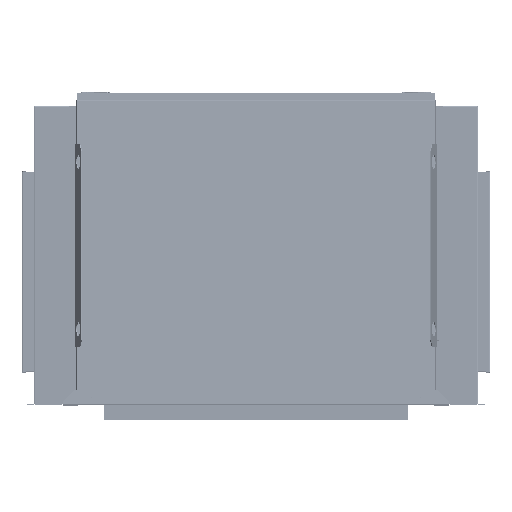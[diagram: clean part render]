
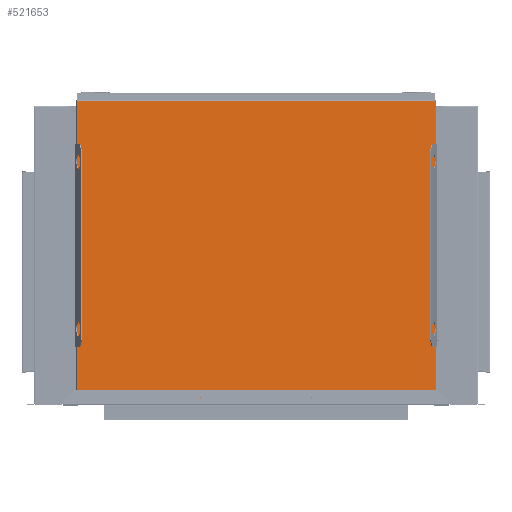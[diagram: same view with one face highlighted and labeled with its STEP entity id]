
A CAD part, top view. The second image highlights one B-rep face of the part: STEP entity #521653.
In plain terms, the highlighted planar face has unit normal (0, 0.044, 0.999) as drawn and (0, 0, 1) by its records, which use the part's own axes.
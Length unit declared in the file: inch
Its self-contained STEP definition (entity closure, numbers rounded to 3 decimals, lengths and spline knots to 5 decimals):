
#822 = CARTESIAN_POINT ( 'NONE',  ( 32.81217, 0.99488, 0.06 ) ) ;
#8132 = DIRECTION ( 'NONE',  ( 1., 0., 0. ) ) ;
#11526 = VERTEX_POINT ( 'NONE', #471740 ) ;
#14458 = VERTEX_POINT ( 'NONE', #395007 ) ;
#15715 = DIRECTION ( 'NONE',  ( -1., 0., 0. ) ) ;
#19744 = VERTEX_POINT ( 'NONE', #439813 ) ;
#20022 = EDGE_CURVE ( 'NONE', #19744, #654805, #240149, .T. ) ;
#22929 = LINE ( 'NONE', #86561, #421782 ) ;
#30483 = AXIS2_PLACEMENT_3D ( 'NONE', #495760, #106322, #555379 ) ;
#41500 = VERTEX_POINT ( 'NONE', #732994 ) ;
#43859 = CARTESIAN_POINT ( 'NONE',  ( 0.188, 0.01567, 0.06 ) ) ;
#45739 = CARTESIAN_POINT ( 'NONE',  ( 17.54783, 0.99488, 0.06 ) ) ;
#47868 = DIRECTION ( 'NONE',  ( 1., 0., 0. ) ) ;
#51626 = VERTEX_POINT ( 'NONE', #61726 ) ;
#52289 = VERTEX_POINT ( 'NONE', #353763 ) ;
#56556 = ORIENTED_EDGE ( 'NONE', *, *, #651096, .F. ) ;
#59160 = ORIENTED_EDGE ( 'NONE', *, *, #570061, .F. ) ;
#60663 = CARTESIAN_POINT ( 'NONE',  ( 48.3, 0.99488, 0.06 ) ) ;
#61726 = CARTESIAN_POINT ( 'NONE',  ( 50.345, 0.125, 0.06 ) ) ;
#72612 = VECTOR ( 'NONE', #15715, 39.37008 ) ;
#77588 = ORIENTED_EDGE ( 'NONE', *, *, #90087, .F. ) ;
#86561 = CARTESIAN_POINT ( 'NONE',  ( 50.172, 0., 0.06 ) ) ;
#88058 = CARTESIAN_POINT ( 'NONE',  ( 0.015, 0.125, 0.06 ) ) ;
#90087 = EDGE_CURVE ( 'NONE', #383994, #451426, #257951, .T. ) ;
#104207 = CARTESIAN_POINT ( 'NONE',  ( 48.2255, 0.99488, 0.06 ) ) ;
#105235 = EDGE_CURVE ( 'NONE', #14458, #252080, #526092, .T. ) ;
#106322 = DIRECTION ( 'NONE',  ( 0., 0., 1. ) ) ;
#126441 = CIRCLE ( 'NONE', #592579, 0.0745 ) ;
#137806 = VERTEX_POINT ( 'NONE', #218986 ) ;
#141510 = ORIENTED_EDGE ( 'NONE', *, *, #105235, .F. ) ;
#142946 = VECTOR ( 'NONE', #645446, 39.37008 ) ;
#143271 = DIRECTION ( 'NONE',  ( 0., 0., 1. ) ) ;
#144119 = FACE_BOUND ( 'NONE', #157583, .T. ) ;
#157583 = EDGE_LOOP ( 'NONE', ( #292670, #500682 ) ) ;
#179290 = DIRECTION ( 'NONE',  ( 1., 0., 0. ) ) ;
#182061 = VERTEX_POINT ( 'NONE', #484949 ) ;
#184287 = EDGE_CURVE ( 'NONE', #402462, #137806, #300490, .T. ) ;
#189944 = CARTESIAN_POINT ( 'NONE',  ( 32.88667, 0.99488, 0.06 ) ) ;
#201200 = AXIS2_PLACEMENT_3D ( 'NONE', #665594, #598365, #605750 ) ;
#204263 = EDGE_CURVE ( 'NONE', #654805, #19744, #126441, .T. ) ;
#207865 = EDGE_CURVE ( 'NONE', #51626, #402462, #507565, .T. ) ;
#208251 = LINE ( 'NONE', #657072, #368184 ) ;
#211392 = DIRECTION ( 'NONE',  ( 1., 0., 0. ) ) ;
#212575 = LINE ( 'NONE', #43859, #722063 ) ;
#218986 = CARTESIAN_POINT ( 'NONE',  ( 0.015, 42.76564, 0.06 ) ) ;
#219644 = EDGE_CURVE ( 'NONE', #52289, #51626, #208251, .T. ) ;
#229627 = EDGE_LOOP ( 'NONE', ( #590144, #77588 ) ) ;
#239664 = CARTESIAN_POINT ( 'NONE',  ( 0., 0.125, 0.06 ) ) ;
#240149 = CIRCLE ( 'NONE', #657917, 0.0745 ) ;
#242576 = DIRECTION ( 'NONE',  ( 0., 0., 1. ) ) ;
#252080 = VERTEX_POINT ( 'NONE', #822 ) ;
#257951 = CIRCLE ( 'NONE', #30483, 0.0745 ) ;
#263122 = AXIS2_PLACEMENT_3D ( 'NONE', #396037, #736306, #47868 ) ;
#263983 = FACE_BOUND ( 'NONE', #403635, .T. ) ;
#266718 = CARTESIAN_POINT ( 'NONE',  ( 17.39883, 0.99488, 0.06 ) ) ;
#267586 = CARTESIAN_POINT ( 'NONE',  ( 0., 0., 0.06 ) ) ;
#290868 = VECTOR ( 'NONE', #384796, 39.37008 ) ;
#292670 = ORIENTED_EDGE ( 'NONE', *, *, #20022, .F. ) ;
#293534 = VERTEX_POINT ( 'NONE', #45739 ) ;
#298541 = VERTEX_POINT ( 'NONE', #266718 ) ;
#300490 = LINE ( 'NONE', #528432, #72612 ) ;
#315043 = DIRECTION ( 'NONE',  ( 0., 1., 0. ) ) ;
#327376 = PLANE ( 'NONE',  #566517 ) ;
#334453 = DIRECTION ( 'NONE',  ( 0., 0., 1. ) ) ;
#339413 = AXIS2_PLACEMENT_3D ( 'NONE', #60663, #569551, #8132 ) ;
#353763 = CARTESIAN_POINT ( 'NONE',  ( 50.172, 0.125, 0.06 ) ) ;
#358352 = DIRECTION ( 'NONE',  ( 1., 0., 0. ) ) ;
#362349 = CARTESIAN_POINT ( 'NONE',  ( 32.88667, 0.99488, 0.06 ) ) ;
#368184 = VECTOR ( 'NONE', #713295, 39.37008 ) ;
#371554 = DIRECTION ( 'NONE',  ( 1., 0., 0. ) ) ;
#375209 = CIRCLE ( 'NONE', #339413, 0.0745 ) ;
#383994 = VERTEX_POINT ( 'NONE', #104207 ) ;
#384796 = DIRECTION ( 'NONE',  ( 0., -1., 0. ) ) ;
#388370 = CARTESIAN_POINT ( 'NONE',  ( 0.188, 0., 0.06 ) ) ;
#392264 = EDGE_LOOP ( 'NONE', ( #141510, #56556 ) ) ;
#394376 = CIRCLE ( 'NONE', #263122, 0.0745 ) ;
#395007 = CARTESIAN_POINT ( 'NONE',  ( 32.96117, 0.99488, 0.06 ) ) ;
#395393 = CARTESIAN_POINT ( 'NONE',  ( 50.345, 0.125, 0.06 ) ) ;
#396037 = CARTESIAN_POINT ( 'NONE',  ( 17.47333, 0.99488, 0.06 ) ) ;
#402462 = VERTEX_POINT ( 'NONE', #701467 ) ;
#403635 = EDGE_LOOP ( 'NONE', ( #59160, #681789 ) ) ;
#415469 = LINE ( 'NONE', #239664, #535440 ) ;
#421782 = VECTOR ( 'NONE', #315043, 39.37008 ) ;
#423984 = EDGE_CURVE ( 'NONE', #451426, #383994, #375209, .T. ) ;
#429325 = ORIENTED_EDGE ( 'NONE', *, *, #184287, .T. ) ;
#437272 = CARTESIAN_POINT ( 'NONE',  ( 48.3745, 0.99488, 0.06 ) ) ;
#437760 = ORIENTED_EDGE ( 'NONE', *, *, #465688, .T. ) ;
#439813 = CARTESIAN_POINT ( 'NONE',  ( 2.1345, 0.99488, 0.06 ) ) ;
#446848 = DIRECTION ( 'NONE',  ( 1., 0., 0. ) ) ;
#451426 = VERTEX_POINT ( 'NONE', #437272 ) ;
#451725 = EDGE_CURVE ( 'NONE', #11526, #41500, #212575, .T. ) ;
#453527 = EDGE_CURVE ( 'NONE', #467158, #182061, #415469, .T. ) ;
#463281 = VECTOR ( 'NONE', #691541, 39.37008 ) ;
#465688 = EDGE_CURVE ( 'NONE', #137806, #467158, #702630, .T. ) ;
#467158 = VERTEX_POINT ( 'NONE', #88058 ) ;
#467909 = DIRECTION ( 'NONE',  ( 1., 0., 0. ) ) ;
#471740 = CARTESIAN_POINT ( 'NONE',  ( 0.188, 0.01567, 0.06 ) ) ;
#474669 = CARTESIAN_POINT ( 'NONE',  ( 0.015, 42.78, 0.06 ) ) ;
#482004 = DIRECTION ( 'NONE',  ( 0., 0., 1. ) ) ;
#484949 = CARTESIAN_POINT ( 'NONE',  ( 0.188, 0.125, 0.06 ) ) ;
#495541 = EDGE_LOOP ( 'NONE', ( #437760, #589364, #665515, #617918, #543038, #724759, #728649, #429325 ) ) ;
#495760 = CARTESIAN_POINT ( 'NONE',  ( 48.3, 0.99488, 0.06 ) ) ;
#500682 = ORIENTED_EDGE ( 'NONE', *, *, #204263, .F. ) ;
#507565 = LINE ( 'NONE', #395393, #142946 ) ;
#519318 = EDGE_CURVE ( 'NONE', #41500, #52289, #22929, .T. ) ;
#521653 = ADVANCED_FACE ( 'NONE', ( #144119, #263983, #540694, #607719, #660205 ), #327376, .T. ) ;
#523770 = CIRCLE ( 'NONE', #201200, 0.0745 ) ;
#526092 = CIRCLE ( 'NONE', #573984, 0.0745 ) ;
#528432 = CARTESIAN_POINT ( 'NONE',  ( 50.345, 42.76564, 0.06 ) ) ;
#528700 = EDGE_CURVE ( 'NONE', #298541, #293534, #523770, .T. ) ;
#535440 = VECTOR ( 'NONE', #467909, 39.37008 ) ;
#540694 = FACE_BOUND ( 'NONE', #392264, .T. ) ;
#543038 = ORIENTED_EDGE ( 'NONE', *, *, #519318, .T. ) ;
#555379 = DIRECTION ( 'NONE',  ( 1., 0., 0. ) ) ;
#566517 = AXIS2_PLACEMENT_3D ( 'NONE', #267586, #600360, #211392 ) ;
#569551 = DIRECTION ( 'NONE',  ( 0., 0., 1. ) ) ;
#570061 = EDGE_CURVE ( 'NONE', #293534, #298541, #394376, .T. ) ;
#573984 = AXIS2_PLACEMENT_3D ( 'NONE', #362349, #482004, #179290 ) ;
#589364 = ORIENTED_EDGE ( 'NONE', *, *, #453527, .T. ) ;
#590144 = ORIENTED_EDGE ( 'NONE', *, *, #423984, .F. ) ;
#592579 = AXIS2_PLACEMENT_3D ( 'NONE', #625854, #334453, #446848 ) ;
#598365 = DIRECTION ( 'NONE',  ( 0., 0., 1. ) ) ;
#599919 = CIRCLE ( 'NONE', #635805, 0.0745 ) ;
#600360 = DIRECTION ( 'NONE',  ( 0., 0., 1. ) ) ;
#605272 = LINE ( 'NONE', #388370, #290868 ) ;
#605750 = DIRECTION ( 'NONE',  ( 1., 0., 0. ) ) ;
#607719 = FACE_BOUND ( 'NONE', #229627, .T. ) ;
#610699 = CARTESIAN_POINT ( 'NONE',  ( 1.9855, 0.99488, 0.06 ) ) ;
#617918 = ORIENTED_EDGE ( 'NONE', *, *, #451725, .T. ) ;
#625854 = CARTESIAN_POINT ( 'NONE',  ( 2.06, 0.99488, 0.06 ) ) ;
#635805 = AXIS2_PLACEMENT_3D ( 'NONE', #189944, #242576, #358352 ) ;
#645446 = DIRECTION ( 'NONE',  ( 0., 1., 0. ) ) ;
#651096 = EDGE_CURVE ( 'NONE', #252080, #14458, #599919, .T. ) ;
#654805 = VERTEX_POINT ( 'NONE', #610699 ) ;
#655667 = CARTESIAN_POINT ( 'NONE',  ( 2.06, 0.99488, 0.06 ) ) ;
#657072 = CARTESIAN_POINT ( 'NONE',  ( 0., 0.125, 0.06 ) ) ;
#657917 = AXIS2_PLACEMENT_3D ( 'NONE', #655667, #143271, #371554 ) ;
#660205 = FACE_OUTER_BOUND ( 'NONE', #495541, .T. ) ;
#665515 = ORIENTED_EDGE ( 'NONE', *, *, #704351, .T. ) ;
#665594 = CARTESIAN_POINT ( 'NONE',  ( 17.47333, 0.99488, 0.06 ) ) ;
#672438 = DIRECTION ( 'NONE',  ( 1., 0., 0. ) ) ;
#681789 = ORIENTED_EDGE ( 'NONE', *, *, #528700, .F. ) ;
#691541 = DIRECTION ( 'NONE',  ( 0., -1., 0. ) ) ;
#701467 = CARTESIAN_POINT ( 'NONE',  ( 50.345, 42.76564, 0.06 ) ) ;
#702630 = LINE ( 'NONE', #474669, #463281 ) ;
#704351 = EDGE_CURVE ( 'NONE', #182061, #11526, #605272, .T. ) ;
#713295 = DIRECTION ( 'NONE',  ( 1., 0., 0. ) ) ;
#722063 = VECTOR ( 'NONE', #672438, 39.37008 ) ;
#724759 = ORIENTED_EDGE ( 'NONE', *, *, #219644, .T. ) ;
#728649 = ORIENTED_EDGE ( 'NONE', *, *, #207865, .T. ) ;
#732994 = CARTESIAN_POINT ( 'NONE',  ( 50.172, 0.01567, 0.06 ) ) ;
#736306 = DIRECTION ( 'NONE',  ( 0., 0., 1. ) ) ;
